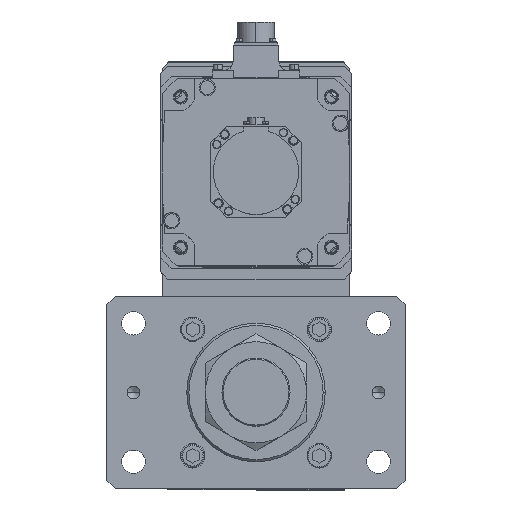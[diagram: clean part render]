
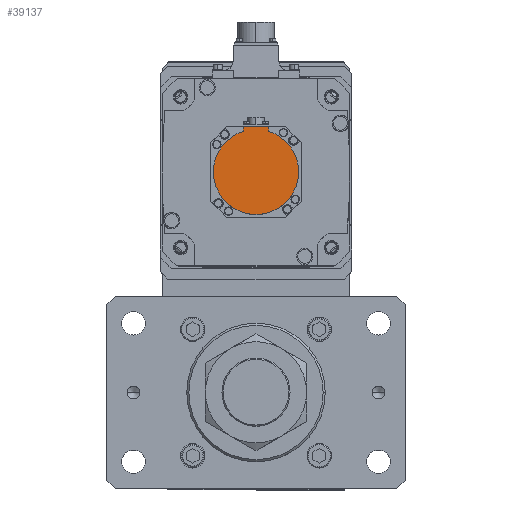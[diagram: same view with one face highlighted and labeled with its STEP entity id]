
A CAD part, top view. The second image highlights one B-rep face of the part: STEP entity #39137.
In plain terms, the highlighted planar face has unit normal (0, 0, 1) as drawn and (0, 0, -1) by its records, which use the part's own axes.
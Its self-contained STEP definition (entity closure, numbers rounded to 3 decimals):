
#139 = CARTESIAN_POINT ( 'NONE',  ( 12., -1.249, -178.5 ) ) ;
#452 = EDGE_CURVE ( 'NONE', #47387, #34452, #1849, .T. ) ;
#1712 = DIRECTION ( 'NONE',  ( 0., 0., 1. ) ) ;
#1849 = CIRCLE ( 'NONE', #7600, 40. ) ;
#4022 = CARTESIAN_POINT ( 'NONE',  ( 0., 0., -178.5 ) ) ;
#4353 = CARTESIAN_POINT ( 'NONE',  ( 0., -1.249, -178.5 ) ) ;
#5994 = CARTESIAN_POINT ( 'NONE',  ( 12., -42.5, -178.5 ) ) ;
#6294 = ORIENTED_EDGE ( 'NONE', *, *, #8270, .T. ) ;
#6709 = AXIS2_PLACEMENT_3D ( 'NONE', #42723, #1712, #21946 ) ;
#7600 = AXIS2_PLACEMENT_3D ( 'NONE', #4022, #48899, #28357 ) ;
#7800 = ORIENTED_EDGE ( 'NONE', *, *, #452, .F. ) ;
#8225 = LINE ( 'NONE', #32896, #49425 ) ;
#8270 = EDGE_CURVE ( 'NONE', #34120, #34452, #52589, .T. ) ;
#8468 = PLANE ( 'NONE',  #30677 ) ;
#10343 = ORIENTED_EDGE ( 'NONE', *, *, #17508, .F. ) ;
#10828 = VERTEX_POINT ( 'NONE', #40286 ) ;
#12267 = DIRECTION ( 'NONE',  ( 0., 0., 1. ) ) ;
#13814 = EDGE_CURVE ( 'NONE', #39545, #10828, #33690, .T. ) ;
#14992 = LINE ( 'NONE', #139, #51765 ) ;
#16027 = EDGE_CURVE ( 'NONE', #43443, #39545, #14992, .T. ) ;
#16400 = CARTESIAN_POINT ( 'NONE',  ( 12., -38.158, -178.5 ) ) ;
#16922 = CARTESIAN_POINT ( 'NONE',  ( -12., -40.329, -178.5 ) ) ;
#17508 = EDGE_CURVE ( 'NONE', #10828, #47387, #47788, .T. ) ;
#19834 = CARTESIAN_POINT ( 'NONE',  ( -12., -42.5, -178.5 ) ) ;
#21946 = DIRECTION ( 'NONE',  ( 1., 0., 0. ) ) ;
#24985 = DIRECTION ( 'NONE',  ( 1., 0., 0. ) ) ;
#25414 = DIRECTION ( 'NONE',  ( 0., 1., 0. ) ) ;
#25665 = DIRECTION ( 'NONE',  ( 0., 1., 0. ) ) ;
#25889 = VECTOR ( 'NONE', #25414, 1000. ) ;
#28357 = DIRECTION ( 'NONE',  ( 1., 0., 0. ) ) ;
#28968 = EDGE_CURVE ( 'NONE', #43443, #34120, #8225, .T. ) ;
#29173 = EDGE_LOOP ( 'NONE', ( #6294, #7800, #10343, #50303, #47148, #45050 ) ) ;
#29233 = DIRECTION ( 'NONE',  ( 1., 0., 0. ) ) ;
#30677 = AXIS2_PLACEMENT_3D ( 'NONE', #4353, #45513, #29233 ) ;
#30774 = CARTESIAN_POINT ( 'NONE',  ( -12., -38.158, -178.5 ) ) ;
#32896 = CARTESIAN_POINT ( 'NONE',  ( 0., -42.5, -178.5 ) ) ;
#33139 = CARTESIAN_POINT ( 'NONE',  ( 0., 0., -178.5 ) ) ;
#33690 = CIRCLE ( 'NONE', #49457, 40. ) ;
#34120 = VERTEX_POINT ( 'NONE', #19834 ) ;
#34452 = VERTEX_POINT ( 'NONE', #30774 ) ;
#37844 = CARTESIAN_POINT ( 'NONE',  ( -40., 0., -178.5 ) ) ;
#39137 = ADVANCED_FACE ( 'NONE', ( #46723 ), #8468, .F. ) ;
#39545 = VERTEX_POINT ( 'NONE', #16400 ) ;
#40286 = CARTESIAN_POINT ( 'NONE',  ( 40., 0., -178.5 ) ) ;
#41038 = DIRECTION ( 'NONE',  ( -1., 0., 0. ) ) ;
#42723 = CARTESIAN_POINT ( 'NONE',  ( 0., 0., -178.5 ) ) ;
#43443 = VERTEX_POINT ( 'NONE', #5994 ) ;
#45050 = ORIENTED_EDGE ( 'NONE', *, *, #28968, .T. ) ;
#45513 = DIRECTION ( 'NONE',  ( 0., 0., 1. ) ) ;
#46723 = FACE_OUTER_BOUND ( 'NONE', #29173, .T. ) ;
#47148 = ORIENTED_EDGE ( 'NONE', *, *, #16027, .F. ) ;
#47387 = VERTEX_POINT ( 'NONE', #37844 ) ;
#47788 = CIRCLE ( 'NONE', #6709, 40. ) ;
#48899 = DIRECTION ( 'NONE',  ( 0., 0., 1. ) ) ;
#49425 = VECTOR ( 'NONE', #41038, 1000. ) ;
#49457 = AXIS2_PLACEMENT_3D ( 'NONE', #33139, #12267, #24985 ) ;
#50303 = ORIENTED_EDGE ( 'NONE', *, *, #13814, .F. ) ;
#51765 = VECTOR ( 'NONE', #25665, 1000. ) ;
#52589 = LINE ( 'NONE', #16922, #25889 ) ;
